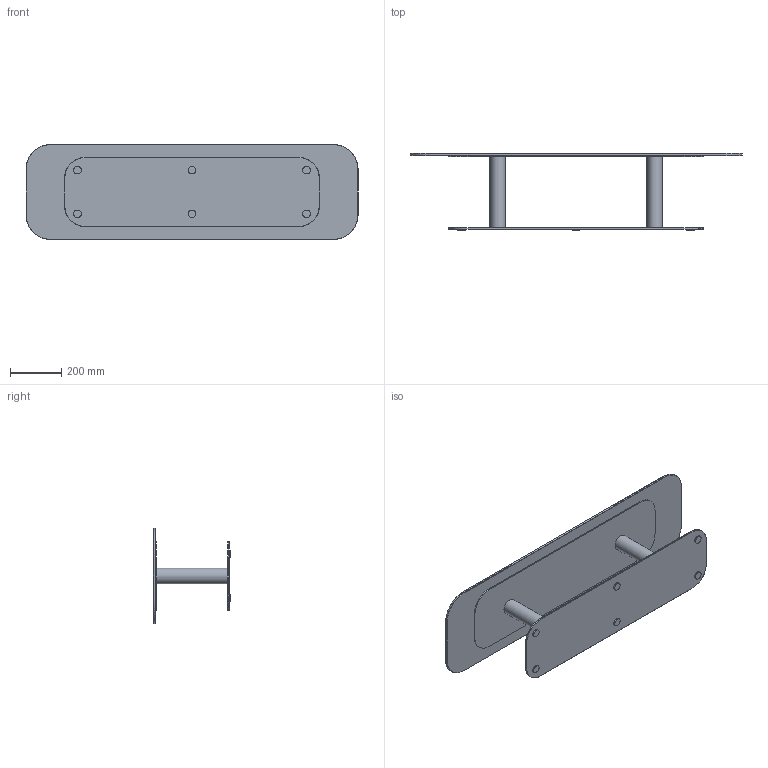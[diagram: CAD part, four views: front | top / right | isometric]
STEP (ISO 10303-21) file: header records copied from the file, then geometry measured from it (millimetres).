
FILE_DESCRIPTION(/* description */ (''),/* implementation_level */ '2;1');
FILE_NAME(/* name */ 'U:/01 COLLECTIE/02 OUTDOOR/01 Producten/Kodo collection/Coffee Table & side table/3D/VincentSheppard_Kodo_CT.step',/* time_stamp */ '2019-09-24T08:43:43+02:00',/* author */ (''),/* organization */ (''),/* preprocessor_version */ 'ST-DEVELOPER v18',/* originating_system */ 'Autodesk Translation Framework v8.6.0.1094',/* authorisation */ '');
FILE_SCHEMA (('AUTOMOTIVE_DESIGN { 1 0 10303 214 3 1 1 }'));
Length unit declared in the file: millimetre
Products named in the file (1): VincentSheppard_Kodo_CT
Bounding box: 1290 x 300 x 370 mm (x, y, z)
Volume: 7957911.9 mm3; surface area: 2156711 mm2
Topology: 11 solids, 11 shells, 86 faces, 160 edges, 96 vertices
Faces by surface type: plane 42, cylinder 28, cone 8, torus 8
Full cylindrical faces by diameter (mm): 30 x6, 60 x2
Entity records: 2150 total; most frequent: DIRECTION 406, CARTESIAN_POINT 343, ORIENTED_EDGE 320, EDGE_CURVE 160, AXIS2_PLACEMENT_3D 159, VERTEX_POINT 96, LINE 88, VECTOR 88
